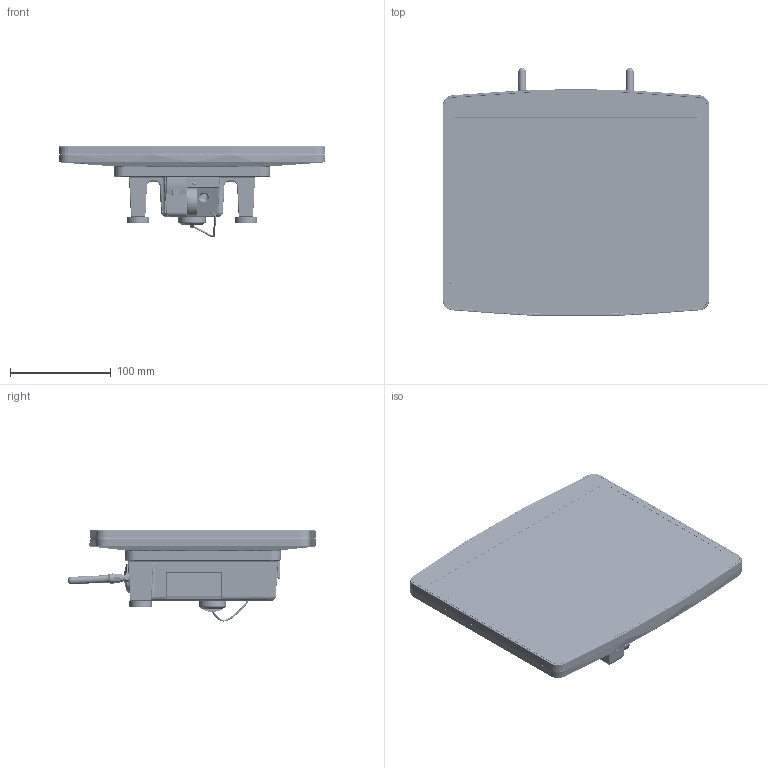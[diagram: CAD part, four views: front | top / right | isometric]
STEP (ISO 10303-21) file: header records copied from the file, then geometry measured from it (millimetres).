
FILE_DESCRIPTION (( 'STEP AP214' ), '1' );
FILE_NAME ('HGW1033-01 12-246-1033-01 20191122.STEP', '2019-11-22T12:58:00', ( 'Windows-Benutzer' ), ( '' ), 'SwSTEP 2.0', 'SolidWorks 2018', '' );
FILE_SCHEMA (( 'AUTOMOTIVE_DESIGN' ));
Length unit declared in the file: millimetre
Products named in the file (27): HGW-KAB-04 ON-OFF Taster-Kabel HGW1033-3; 7297771191_Blindstopfen 22mm_Dunkelgrau; ZM1433-3354-10 Blindstopfen fuer Schluesselschalter_Anthrazitgrau RAL7016; Mittelteil_10z_HBG-HGT_V2.0_Mittelteil 10z HBG-HGT RAL7024; ZM1508-2459-10 Rueckwand HBG-HGT_ZM1912-4728-10 Gehеse R…kteil HGW1033 (Nachar.) (Pr. 04918); 4080225590 Kappe f. Mag. Buchse (M4Z003-000 Rosenberger); ZM1337-2930-10 Front_10z_HBG-HGT_ZM1839-4148-10 Geh„use Front HGW1033-3 (Nachb.) (Pr. 07516); 3030202676 Mentor Lichtleiter 12598 - LU PLP1-C- 6,4-G; 7277771651 Antennekabel UFL-RP-SMA 150mm 50R, 6GHz, Ins.Loss 1.5dB SINBON_Ohne Kabel; 7227771142 Cover Lens Touch-Displaykombi (Ampire AM-1280800NNTZQW-T20H_Daten f. Support; 7297771222 Taster mit EIN-AUS Symbol Beleuchtet, 1 Öffner_Ohne Mutter; 7227771142 Touch-Displaykombi (Ampire AM-1280800NNTZQW-T20H)_Daten f. Support; 7717771042 Stabantenne mit RP-SMA 2.4 u. 5 GHz 50Ohm Abracon; HGW1033-01 12-246-1033-01 20191122; Dummy Schnur f. Kappe Ladestecker; ZM1839-4353-20 Taster-Erhöhung HGW1033-3; 7277771651 Mutter Antennensockel; ZM1912-4710-10 Frontfolie HGW1033; HGT Rückteil KPL_Support-Daten HGW1033; 7277771651 Federscheibe Antennensockel; 3030301075 PT-Senkkopfschraube WN1423 KA22x8 Torx; ZM1433-3357-10 KU-Abdeckung Zustimmtaster_Grafitgrau; 4080225591 Mag. Buchse (C003-17-200-C Rosenberger); Three-Bond Propfen Wandhalterung; USB-Abdeckung 3030201646-2 (RAL7035 lichtgrau) 3030201647-2 (RAL7024 grafitgrau)_mit Stiftdichtung; 3030202836-magnet22x6-M4
Assembly tree (47 placements, depth 4):
  HGW1033-01 12-246-1033-01 20191122
    ZM1912-4710-10 Frontfolie HGW1033
    7227771142 Touch-Displaykombi (Ampire AM-1280800NNTZQW-T20H)_Daten f. Support
      7227771142 Cover Lens Touch-Displaykombi (Ampire AM-1280800NNTZQW-T20H_Daten f. Support
    ZM1337-2930-10 Front_10z_HBG-HGT_ZM1839-4148-10 Geh„use Front HGW1033-3 (Nachb.) (Pr. 07516)
    Mittelteil_10z_HBG-HGT_V2.0_Mittelteil 10z HBG-HGT RAL7024
    HGT Rückteil KPL_Support-Daten HGW1033
      ZM1508-2459-10 Rueckwand HBG-HGT_ZM1912-4728-10 Gehеse R…kteil HGW1033 (Nachar.) (Pr. 04918)
      3030202676 Mentor Lichtleiter 12598 - LU PLP1-C- 6,4-G
      USB-Abdeckung 3030201646-2 (RAL7035 lichtgrau) 3030201647-2 (RAL7024 grafitgrau)_mit Stiftdichtung
      7297771191_Blindstopfen 22mm_Dunkelgrau
      ZM1433-3357-10 KU-Abdeckung Zustimmtaster_Grafitgrau
      ZM1433-3354-10 Blindstopfen fuer Schluesselschalter_Anthrazitgrau RAL7016
      3030202836-magnet22x6-M4  x2
      Three-Bond Propfen Wandhalterung  x4
      3030301075 PT-Senkkopfschraube WN1423 KA22x8 Torx  x6
      HGW-KAB-04 ON-OFF Taster-Kabel HGW1033-3
        7297771222 Taster mit EIN-AUS Symbol Beleuchtet, 1 Öffner_Ohne Mutter
      ZM1839-4353-20 Taster-Erhöhung HGW1033-3
      7717771042 Stabantenne mit RP-SMA 2.4 u. 5 GHz 50Ohm Abracon  x2
      7277771651 Antennekabel UFL-RP-SMA 150mm 50R, 6GHz, Ins.Loss 1.5dB SINBON_Ohne Kabel  x2
        7277771651 Antennekabel UFL-RP-SMA 150mm 50R, 6GHz, Ins.Loss 1.5dB SINBON_Ohne Kabel
        7277771651 Mutter Antennensockel
        7277771651 Federscheibe Antennensockel
      4080225591 Mag. Buchse (C003-17-200-C Rosenberger)
      4080225590 Kappe f. Mag. Buchse (M4Z003-000 Rosenberger)
      Dummy Schnur f. Kappe Ladestecker
    3030301075 PT-Senkkopfschraube WN1423 KA22x8 Torx  x10
Bounding box: 263.9 x 246.24 x 90.15 mm (x, y, z)
Volume: 258920.3 mm3; surface area: 402783.2 mm2
Topology: 47 solids, 49 shells, 9047 faces, 21508 edges, 12146 vertices
Faces by surface type: cylinder 2639, bspline 2206, plane 2168, torus 914, cone 600, sphere 520
Entity records: 299473 total; most frequent: CARTESIAN_POINT 124395, ORIENTED_EDGE 38164, DIRECTION 33818, EDGE_CURVE 19082, AXIS2_PLACEMENT_3D 13566, VERTEX_POINT 11000, EDGE_LOOP 8694, FACE_OUTER_BOUND 8345
